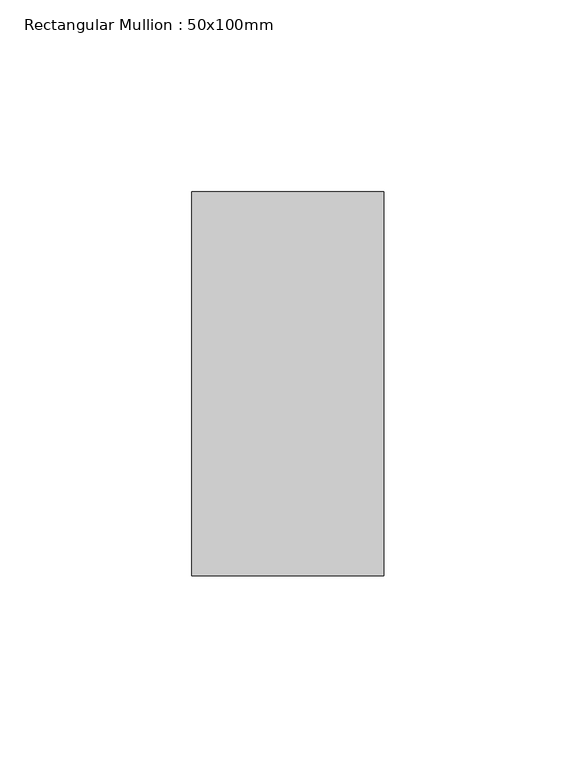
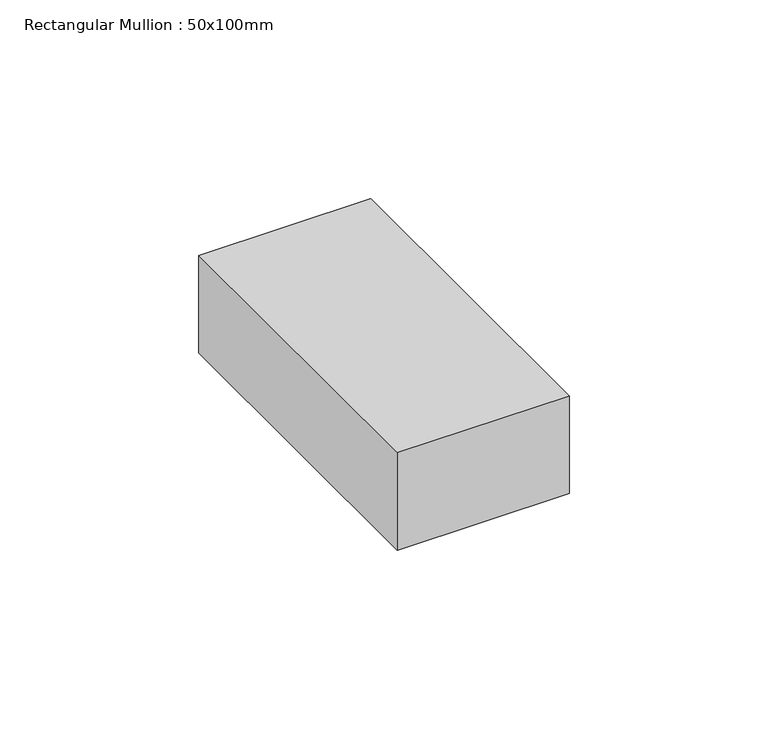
"""IFC4 building model written with IfcOpenShell, lengths in millimetres: member geometry, Rectangular Mullion : 50x100mm."""

from ifc_helpers import new_model, si_unit, frame, origin, place, context, project, spatial, polyline, outline, extrude, source, transform, mapped, element, save


def rectangular_mullion_50x100mm_84b3a5d4(model_context):
    return source(origin(), model_context, "Body", "SweptSolid", [
        extrude(outline(polyline([(25.0, 50.0), (25.0, -50.0), (-25.0, -50.0), (-25.0, 50.0), (25.0, 50.0)])), frame((0.0, 0.0, -30.0), z_axis=(0.0, 0.0, 1.0), x_axis=(1.0, 0.0, 0.0)), (0.0, 0.0, 1.0), 30.0),
    ])


if __name__ == "__main__":
    model = new_model("IFC4")
    model_context = context("Model", 3, world=origin())
    ifc_project = project(units=[si_unit("LENGTHUNIT", "METRE", prefix="MILLI")], contexts=[model_context])
    site = spatial("IfcSite", under=ifc_project)
    building = spatial("IfcBuilding", under=site)
    placement = place(None, origin())
    rectangular_mullion_50x100mm_shape = rectangular_mullion_50x100mm_84b3a5d4(model_context)
    element("IfcMember", 1, ObjectType="Rectangular Mullion : 50x100mm", at=placement, inside=building, context=model_context, shape_type="MappedRepresentation", body=[
        mapped(rectangular_mullion_50x100mm_shape, transform((0.0, 0.0, 0.0), x_axis=(1.0, 0.0, 0.0), y_axis=(0.0, 1.0, 0.0), z_axis=(0.0, 0.0, 1.0))),
    ])
    save(model, "model.ifc")
